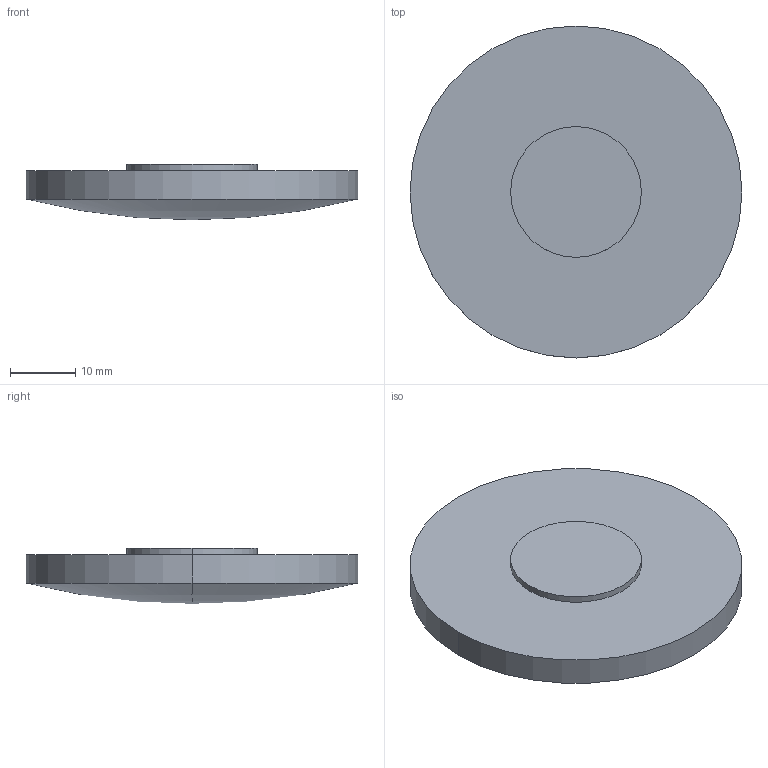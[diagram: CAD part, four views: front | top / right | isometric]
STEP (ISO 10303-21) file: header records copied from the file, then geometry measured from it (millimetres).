
FILE_DESCRIPTION(('STEP AP214'),'1');
FILE_NAME('LL-51-150.STEP','2020-03-09T17:41:14',(' '),(' '),'Spatial InterOp 3D',' ',' ');
FILE_SCHEMA(('AUTOMOTIVE_DESIGN { 1 0 10303 214 1 1 1 1 }'));
Length unit declared in the file: millimetre
Products named in the file (1): 1
Bounding box: 50.8 x 50.8 x 8.5 mm (x, y, z)
Volume: 12321.3 mm3; surface area: 5467.7 mm2
Topology: 2 solids, 2 shells, 9 faces, 16 edges, 9 vertices
Faces by surface type: cylinder 4, plane 3, sphere 2
Entity records: 229 total; most frequent: DIRECTION 46, CARTESIAN_POINT 34, ORIENTED_EDGE 28, AXIS2_PLACEMENT_3D 21, EDGE_CURVE 14, CIRCLE 10, ADVANCED_FACE 9, FACE_OUTER_BOUND 9
